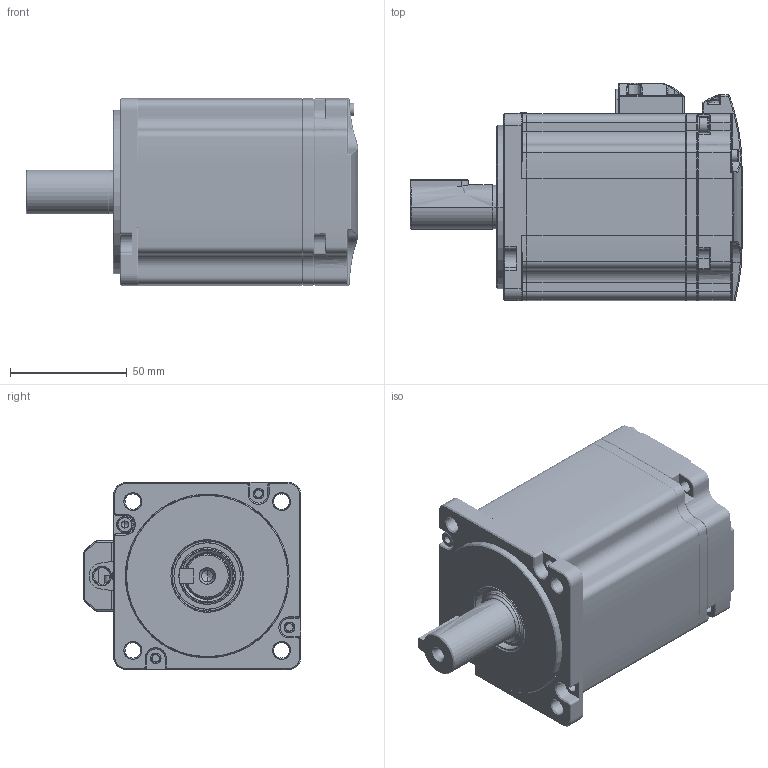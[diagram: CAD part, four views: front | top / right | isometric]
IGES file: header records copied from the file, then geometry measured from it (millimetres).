
Start section: SolidWorks IGES file using analytic representation for surfaces
Bounding box: 142 x 93 x 80 mm (x, y, z)
Surface area: 145013.7 mm2 (no closed solid volume)
Topology: 0 solids, 0 shells, 2032 faces, 25638 edges, 25551 vertices
Faces by surface type: revolution 1040, bspline 992
